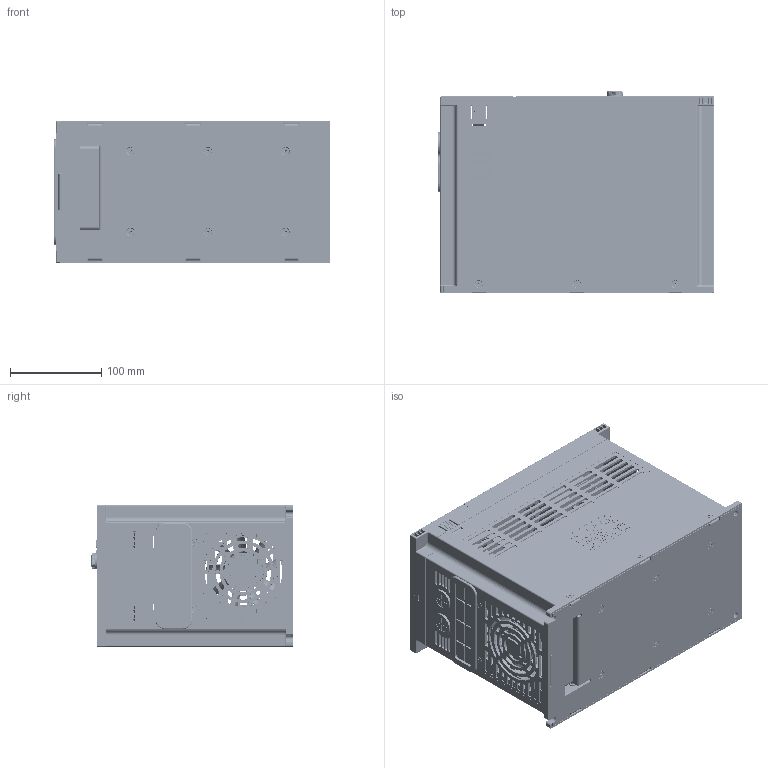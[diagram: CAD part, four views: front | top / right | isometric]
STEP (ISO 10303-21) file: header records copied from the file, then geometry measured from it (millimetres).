
FILE_DESCRIPTION (( 'STEP AP203' ), '1' );
FILE_NAME ('YD101-F4 （外发客户）.STEP', '2019-08-29T01:22:32', ( 'User' ), ( 'china' ), 'SwSTEP 2.0', 'SolidWorks 2017', '' );
FILE_SCHEMA (( 'CONFIG_CONTROL_DESIGN' ));
Length unit declared in the file: millimetre
Products named in the file (38): ｷ酲ﾈ 50｡ﾁ50｡ﾁ10 ; YD101-L KEYPADLABEL 12.6.27; 奻裔狟 12.09.18; F3,F4 尥翹諳; FAN92X92X38; ｷ酲ﾈ 60｡ﾁ60｡ﾁ10 ; keypad 12.6.28; keypad cover12.06.28; 嘐隅傷赽10.07.15; M4x17肣翐_蕼偞; 橡胶塞; 敃佪 22 ; keypad pcb 12.06.27; 諷秶啣 12.08.06 YZ; TM1 傷赽怢 ; dinkle_0167-5009; 劑豢梓ワ; LED; YD101-F4 傷赽怢盓殤(TM2) 13.2.1 (YCON1082) ; YD101-F4 奻裔 12.10.11; YD101-F4 （外发客户）; led-2pin; keypad downcover 12.06.28; 諉華蹟緲M4℅10; Flat Head Screw_AM  M4-8_B18.6.7M - M3 x 0.5 x 5 Type I Cross Recessed FHMS --5N; 硌尨腑梓ワ 425; TACTLE SWITCH SNTTYPE   ELTM-41; M4｡ﾁ8 ; rj45 180 ; P8542-88C10-01G-40p_p8542-13c10-01g; VR 10.12.07; 425 MODEL ; ek500v-22p; YD101-F4 菁啣 [鍼踢] (YCON1077); YD101-F4 橈埽え(翋啣),YCON1084) ; KB-A011-2P-WP(帽子）12.04.12; M5℅16  - 萵掛; 2.54MM PIN HEADER LENTH24MM -40P 12.08.28_E310
Assembly tree (86 placements, depth 3):
  YD101-F4 （外发客户）
    YD101-F4 菁啣 [鍼踢] (YCON1077)
    FAN92X92X38
    M4x17肣翐_蕼偞  x2
    TM1 傷赽怢 
    YD101-F4 奻裔 12.10.11
    Flat Head Screw_AM  M4-8_B18.6.7M - M3 x 0.5 x 5 Type I Cross Recessed FHMS --5N  x12
    諷秶啣 12.08.06 YZ
      rj45 180 
      ek500v-22p
      2.54MM PIN HEADER LENTH24MM -40P 12.08.28_E310
      F3,F4 尥翹諳
      嘐隅傷赽10.07.15  x3
    YD101-F4 傷赽怢盓殤(TM2) 13.2.1 (YCON1082) 
    諉華蹟緲M4℅10  x2
    M4｡ﾁ8   x26
    425 MODEL 
    M5℅16  - 萵掛  x4
    奻裔狟 12.09.18
    keypad 12.6.28
      keypad cover12.06.28
      keypad pcb 12.06.27
      LED
      keypad downcover 12.06.28
      TACTLE SWITCH SNTTYPE   ELTM-41  x6
      VR 10.12.07
      KB-A011-2P-WP(帽子）12.04.12
      YD101-L KEYPADLABEL 12.6.27
    敃佪 22   x2
    劑豢梓ワ
    led-2pin
    硌尨腑梓ワ 425
    P8542-88C10-01G-40p_p8542-13c10-01g
    YD101-F4 橈埽え(翋啣),YCON1084) 
    ｷ酲ﾈ 50｡ﾁ50｡ﾁ10 
    ｷ酲ﾈ 60｡ﾁ60｡ﾁ10 
    橡胶塞
    dinkle_0167-5009
Bounding box: 302.5 x 220.45 x 155 mm (x, y, z)
Volume: 968904.1 mm3; surface area: 824033.1 mm2
Topology: 197 solids, 265 shells, 18663 faces, 48417 edges, 31282 vertices
Faces by surface type: plane 11200, cylinder 3032, bspline 2992, cone 815, torus 471, sphere 153
Full cylindrical faces by diameter (mm): 2.5 x18
Entity records: 646555 total; most frequent: CARTESIAN_POINT 252071, ORIENTED_EDGE 86607, DIRECTION 69744, EDGE_CURVE 43378, VECTOR 29226, LINE 29226, VERTEX_POINT 28172, AXIS2_PLACEMENT_3D 20259
